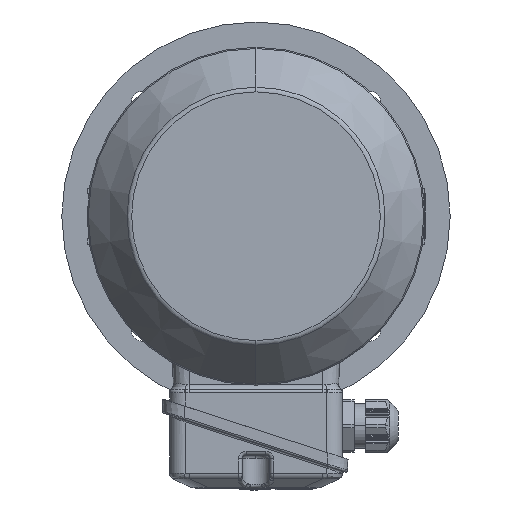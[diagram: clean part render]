
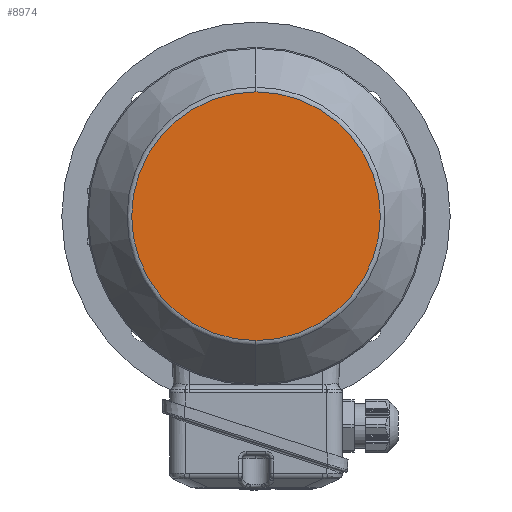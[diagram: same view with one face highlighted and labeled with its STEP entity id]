
A CAD part, left-side view. The second image highlights one B-rep face of the part: STEP entity #8974.
In plain terms, the highlighted planar face has unit normal (-1, 0, 0).
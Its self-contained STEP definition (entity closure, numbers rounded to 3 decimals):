
#606 = EDGE_CURVE ( 'NONE', #4268, #34410, #5411, .T. ) ;
#2052 = DIRECTION ( 'NONE',  ( -1., 0., 0. ) ) ;
#3963 = AXIS2_PLACEMENT_3D ( 'NONE', #40335, #2052, #32677 ) ;
#4268 = VERTEX_POINT ( 'NONE', #39255 ) ;
#4272 = EDGE_LOOP ( 'NONE', ( #7940, #41643 ) ) ;
#4443 = CIRCLE ( 'NONE', #23408, 64.037 ) ;
#4597 = DIRECTION ( 'NONE',  ( 0., 0., -1. ) ) ;
#5296 = DIRECTION ( 'NONE',  ( 0., 0., -1. ) ) ;
#5411 = CIRCLE ( 'NONE', #43072, 64.037 ) ;
#6066 = PLANE ( 'NONE',  #3963 ) ;
#7940 = ORIENTED_EDGE ( 'NONE', *, *, #606, .F. ) ;
#8974 = ADVANCED_FACE ( 'NONE', ( #22620 ), #6066, .T. ) ;
#12799 = CARTESIAN_POINT ( 'NONE',  ( -166.5, 0., 0. ) ) ;
#19737 = DIRECTION ( 'NONE',  ( 1., 0., 0. ) ) ;
#22620 = FACE_OUTER_BOUND ( 'NONE', #4272, .T. ) ;
#23408 = AXIS2_PLACEMENT_3D ( 'NONE', #38872, #19737, #4597 ) ;
#32677 = DIRECTION ( 'NONE',  ( 0., 1., 0. ) ) ;
#34410 = VERTEX_POINT ( 'NONE', #41798 ) ;
#38872 = CARTESIAN_POINT ( 'NONE',  ( -166.5, 0., 0. ) ) ;
#39255 = CARTESIAN_POINT ( 'NONE',  ( -166.5, 0., -64.037 ) ) ;
#40335 = CARTESIAN_POINT ( 'NONE',  ( -166.5, 0., -64.037 ) ) ;
#41040 = EDGE_CURVE ( 'NONE', #34410, #4268, #4443, .T. ) ;
#41643 = ORIENTED_EDGE ( 'NONE', *, *, #41040, .F. ) ;
#41798 = CARTESIAN_POINT ( 'NONE',  ( -166.5, 0., 64.037 ) ) ;
#43072 = AXIS2_PLACEMENT_3D ( 'NONE', #12799, #46893, #5296 ) ;
#46893 = DIRECTION ( 'NONE',  ( 1., 0., 0. ) ) ;
